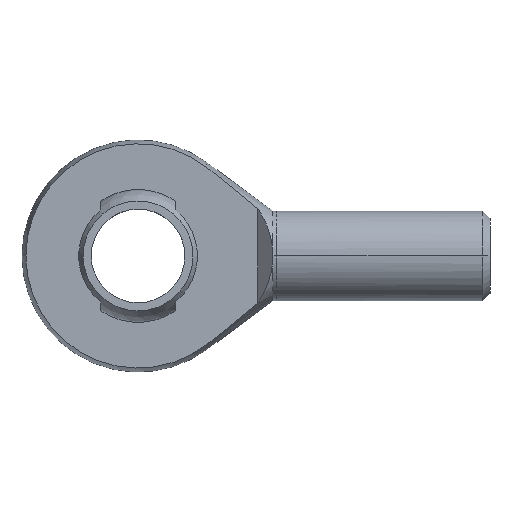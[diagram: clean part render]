
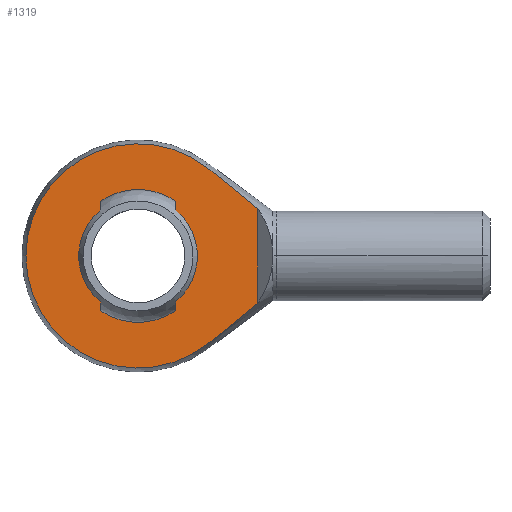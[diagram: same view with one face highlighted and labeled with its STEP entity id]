
A CAD part, top view. The second image highlights one B-rep face of the part: STEP entity #1319.
In plain terms, the highlighted planar face has unit normal (0, 0, 1).
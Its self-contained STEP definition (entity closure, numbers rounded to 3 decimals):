
#29 = EDGE_CURVE ( 'NONE', #31, #102, #263, .T. ) ;
#30 = VERTEX_POINT ( 'NONE', #259 ) ;
#31 = VERTEX_POINT ( 'NONE', #258 ) ;
#61 = VERTEX_POINT ( 'NONE', #326 ) ;
#65 = VERTEX_POINT ( 'NONE', #321 ) ;
#66 = EDGE_CURVE ( 'NONE', #65, #30, #319, .T. ) ;
#90 = VERTEX_POINT ( 'NONE', #338 ) ;
#97 = EDGE_CURVE ( 'NONE', #90, #102, #383, .T. ) ;
#102 = VERTEX_POINT ( 'NONE', #368 ) ;
#148 = EDGE_CURVE ( 'NONE', #151, #166, #473, .T. ) ;
#151 = VERTEX_POINT ( 'NONE', #472 ) ;
#153 = VERTEX_POINT ( 'NONE', #463 ) ;
#155 = EDGE_CURVE ( 'NONE', #1368, #153, #507, .T. ) ;
#166 = VERTEX_POINT ( 'NONE', #488 ) ;
#258 = CARTESIAN_POINT ( 'NONE',  ( -10., 14.665, 8. ) ) ;
#259 = CARTESIAN_POINT ( 'NONE',  ( 10., -12.291, 8. ) ) ;
#260 = DIRECTION ( 'NONE',  ( 0., -1., 0. ) ) ;
#261 = VECTOR ( 'NONE', #260, 1000. ) ;
#262 = CARTESIAN_POINT ( 'NONE',  ( -10., 14.665, 8. ) ) ;
#263 = LINE ( 'NONE', #262, #261 ) ;
#316 = DIRECTION ( 'NONE',  ( 0., 1., 0. ) ) ;
#317 = VECTOR ( 'NONE', #316, 1000. ) ;
#318 = CARTESIAN_POINT ( 'NONE',  ( 10., 14.665, 8. ) ) ;
#319 = LINE ( 'NONE', #318, #317 ) ;
#321 = CARTESIAN_POINT ( 'NONE',  ( 10., -14.665, 8. ) ) ;
#326 = CARTESIAN_POINT ( 'NONE',  ( 10., 14.665, 8. ) ) ;
#338 = CARTESIAN_POINT ( 'NONE',  ( -10., -12.291, 8. ) ) ;
#368 = CARTESIAN_POINT ( 'NONE',  ( -10., 12.291, 8. ) ) ;
#379 = DIRECTION ( 'NONE',  ( -1., 0., 0. ) ) ;
#380 = DIRECTION ( 'NONE',  ( 0., 0., -1. ) ) ;
#381 = CARTESIAN_POINT ( 'NONE',  ( 0., 0., 8. ) ) ;
#382 = AXIS2_PLACEMENT_3D ( 'NONE', #381, #380, #379 ) ;
#383 = CIRCLE ( 'NONE', #382, 15.845 ) ;
#463 = CARTESIAN_POINT ( 'NONE',  ( 32., -12.616, 8. ) ) ;
#464 = CARTESIAN_POINT ( 'NONE',  ( 18.376, 23.65, 8. ) ) ;
#465 = CARTESIAN_POINT ( 'NONE',  ( 20.684, 21.857, 8. ) ) ;
#466 = CARTESIAN_POINT ( 'NONE',  ( 22.984, 20.051, 8. ) ) ;
#467 = CARTESIAN_POINT ( 'NONE',  ( 26.401, 17.303, 8. ) ) ;
#468 = CARTESIAN_POINT ( 'NONE',  ( 27.535, 16.381, 8. ) ) ;
#469 = CARTESIAN_POINT ( 'NONE',  ( 29.784, 14.517, 8. ) ) ;
#470 = CARTESIAN_POINT ( 'NONE',  ( 30.9, 13.575, 8. ) ) ;
#471 = CARTESIAN_POINT ( 'NONE',  ( 32., 12.616, 8. ) ) ;
#472 = CARTESIAN_POINT ( 'NONE',  ( 32., 12.616, 8. ) ) ;
#473 = B_SPLINE_CURVE_WITH_KNOTS ( 'NONE', 3,
 ( #471, #470, #469, #468, #467, #466, #465, #464 ),
 .UNSPECIFIED., .F., .F.,
 ( 4, 2, 2, 4 ),
 ( 0.137, 0.142, 0.146, 0.155 ),
 .UNSPECIFIED. ) ;
#488 = CARTESIAN_POINT ( 'NONE',  ( 18.376, 23.65, 8. ) ) ;
#496 = CARTESIAN_POINT ( 'NONE',  ( 32., -12.616, 8. ) ) ;
#497 = CARTESIAN_POINT ( 'NONE',  ( 30.897, -13.577, 8. ) ) ;
#498 = CARTESIAN_POINT ( 'NONE',  ( 29.78, -14.52, 8. ) ) ;
#499 = CARTESIAN_POINT ( 'NONE',  ( 27.53, -16.385, 8. ) ) ;
#500 = CARTESIAN_POINT ( 'NONE',  ( 26.397, -17.307, 8. ) ) ;
#501 = CARTESIAN_POINT ( 'NONE',  ( 22.981, -20.053, 8. ) ) ;
#502 = CARTESIAN_POINT ( 'NONE',  ( 20.683, -21.858, 8. ) ) ;
#503 = CARTESIAN_POINT ( 'NONE',  ( 18.376, -23.65, 8. ) ) ;
#507 = B_SPLINE_CURVE_WITH_KNOTS ( 'NONE', 3,
 ( #503, #502, #501, #500, #499, #498, #497, #496 ),
 .UNSPECIFIED., .F., .F.,
 ( 4, 2, 2, 4 ),
 ( 0.088, 0.096, 0.101, 0.105 ),
 .UNSPECIFIED. ) ;
#689 = DIRECTION ( 'NONE',  ( 0., 1., 0. ) ) ;
#690 = VECTOR ( 'NONE', #689, 1000. ) ;
#691 = CARTESIAN_POINT ( 'NONE',  ( 10., 14.665, 8. ) ) ;
#692 = LINE ( 'NONE', #691, #690 ) ;
#693 = CARTESIAN_POINT ( 'NONE',  ( 10., 12.291, 8. ) ) ;
#694 = DIRECTION ( 'NONE',  ( -1., 0., 0. ) ) ;
#695 = DIRECTION ( 'NONE',  ( 0., 0., -1. ) ) ;
#696 = CARTESIAN_POINT ( 'NONE',  ( 0., 0., 8. ) ) ;
#697 = AXIS2_PLACEMENT_3D ( 'NONE', #696, #695, #694 ) ;
#698 = CIRCLE ( 'NONE', #697, 15.845 ) ;
#704 = CARTESIAN_POINT ( 'NONE',  ( -10., -14.665, 8. ) ) ;
#719 = DIRECTION ( 'NONE',  ( 0., 1., 0. ) ) ;
#720 = VECTOR ( 'NONE', #719, 1000. ) ;
#721 = CARTESIAN_POINT ( 'NONE',  ( 32., -31., 8. ) ) ;
#722 = DIRECTION ( 'NONE',  ( -1., 0., 0. ) ) ;
#723 = DIRECTION ( 'NONE',  ( 0., 0., -1. ) ) ;
#724 = CARTESIAN_POINT ( 'NONE',  ( -31., -31., 8. ) ) ;
#725 = LINE ( 'NONE', #721, #720 ) ;
#726 = AXIS2_PLACEMENT_3D ( 'NONE', #724, #723, #722 ) ;
#727 = PLANE ( 'NONE',  #726 ) ;
#728 = FACE_OUTER_BOUND ( 'NONE', #1328, .T. ) ;
#750 = FACE_BOUND ( 'NONE', #1318, .T. ) ;
#766 = DIRECTION ( 'NONE',  ( 1., 0., 0. ) ) ;
#767 = DIRECTION ( 'NONE',  ( 0., 0., 1. ) ) ;
#768 = CARTESIAN_POINT ( 'NONE',  ( 0., 0., 8. ) ) ;
#769 = AXIS2_PLACEMENT_3D ( 'NONE', #768, #767, #766 ) ;
#770 = CIRCLE ( 'NONE', #769, 17.75 ) ;
#771 = DIRECTION ( 'NONE',  ( 0., -1., 0. ) ) ;
#773 = VECTOR ( 'NONE', #771, 1000. ) ;
#774 = CARTESIAN_POINT ( 'NONE',  ( -10., 14.665, 8. ) ) ;
#775 = LINE ( 'NONE', #774, #773 ) ;
#777 = DIRECTION ( 'NONE',  ( 1., 0., 0. ) ) ;
#778 = DIRECTION ( 'NONE',  ( 0., 0., 1. ) ) ;
#779 = CARTESIAN_POINT ( 'NONE',  ( 0., 0., 8. ) ) ;
#780 = AXIS2_PLACEMENT_3D ( 'NONE', #779, #778, #777 ) ;
#781 = CIRCLE ( 'NONE', #780, 17.75 ) ;
#818 = CARTESIAN_POINT ( 'NONE',  ( 0., 0., 8. ) ) ;
#837 = CARTESIAN_POINT ( 'NONE',  ( 18.376, -23.65, 8. ) ) ;
#867 = DIRECTION ( 'NONE',  ( -1., 0., 0. ) ) ;
#868 = DIRECTION ( 'NONE',  ( 0., 0., 1. ) ) ;
#869 = AXIS2_PLACEMENT_3D ( 'NONE', #818, #868, #867 ) ;
#870 = CIRCLE ( 'NONE', #869, 29.95 ) ;
#1301 = VERTEX_POINT ( 'NONE', #704 ) ;
#1304 = ORIENTED_EDGE ( 'NONE', *, *, #1326, .F. ) ;
#1305 = ORIENTED_EDGE ( 'NONE', *, *, #1307, .T. ) ;
#1306 = ORIENTED_EDGE ( 'NONE', *, *, #66, .F. ) ;
#1307 = EDGE_CURVE ( 'NONE', #1308, #30, #698, .T. ) ;
#1308 = VERTEX_POINT ( 'NONE', #693 ) ;
#1309 = EDGE_CURVE ( 'NONE', #1308, #61, #692, .T. ) ;
#1313 = ORIENTED_EDGE ( 'NONE', *, *, #1309, .F. ) ;
#1316 = ORIENTED_EDGE ( 'NONE', *, *, #155, .T. ) ;
#1318 = EDGE_LOOP ( 'NONE', ( #1313, #1305, #1306, #1304, #1338, #1334, #1327, #1335 ) ) ;
#1319 = ADVANCED_FACE ( 'NONE', ( #750, #728 ), #727, .F. ) ;
#1322 = ORIENTED_EDGE ( 'NONE', *, *, #1323, .T. ) ;
#1323 = EDGE_CURVE ( 'NONE', #153, #151, #725, .T. ) ;
#1326 = EDGE_CURVE ( 'NONE', #1301, #65, #781, .T. ) ;
#1327 = ORIENTED_EDGE ( 'NONE', *, *, #29, .F. ) ;
#1328 = EDGE_LOOP ( 'NONE', ( #1316, #1322, #1366, #1363 ) ) ;
#1333 = EDGE_CURVE ( 'NONE', #90, #1301, #775, .T. ) ;
#1334 = ORIENTED_EDGE ( 'NONE', *, *, #97, .T. ) ;
#1335 = ORIENTED_EDGE ( 'NONE', *, *, #1337, .F. ) ;
#1337 = EDGE_CURVE ( 'NONE', #61, #31, #770, .T. ) ;
#1338 = ORIENTED_EDGE ( 'NONE', *, *, #1333, .F. ) ;
#1363 = ORIENTED_EDGE ( 'NONE', *, *, #1377, .T. ) ;
#1366 = ORIENTED_EDGE ( 'NONE', *, *, #148, .T. ) ;
#1368 = VERTEX_POINT ( 'NONE', #837 ) ;
#1377 = EDGE_CURVE ( 'NONE', #166, #1368, #870, .T. ) ;
